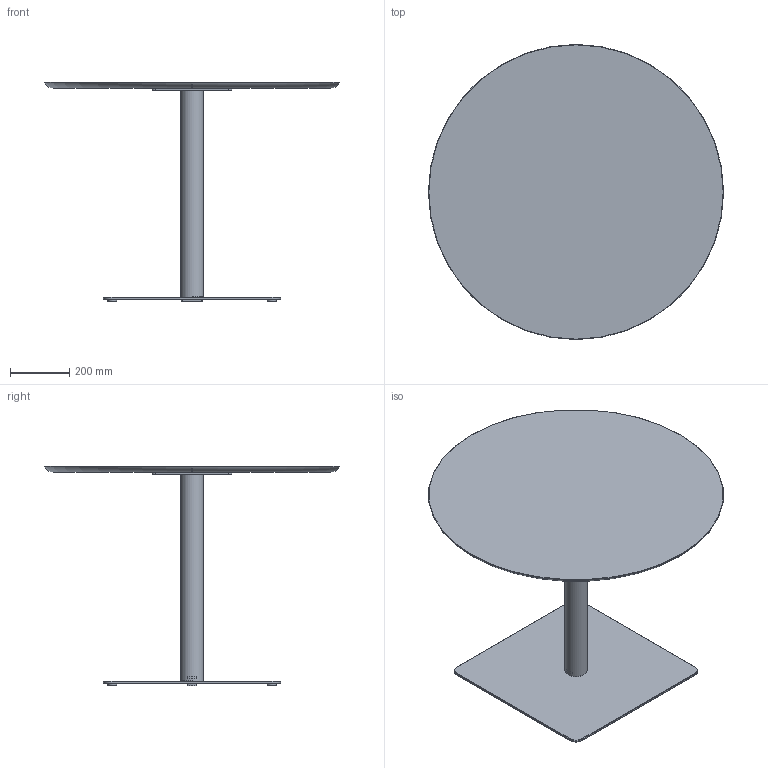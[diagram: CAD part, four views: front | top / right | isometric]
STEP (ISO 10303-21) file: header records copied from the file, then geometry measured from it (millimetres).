
FILE_DESCRIPTION( ('This file contains a STEP AP42 implementation' ,'as created by ZW3D STEP Interface translator.') ,'2;1' );
FILE_NAME( 'Henri - B_Carré - F1 - M3 - 900 x 900 x 750.stp' ,'24 912.162041', (''), ('ZWCAD Software Co.'), 'Version 1.0', 'ZW3D to STEP translator', '' );
FILE_SCHEMA(('AUTOMOTIVE_DESIGN { 1 0 10303 214 1 1 1 1 }'));
Length unit declared in the file: millimetre
Products named in the file (15): 0; PIED BISTROT PARAMETRIQUE_; COLONNE ACIER Ø76 V.02_; TUB-D076-02_; PLA-R76B-01_; CROIX ACIER 370 V.02_; CRX-X370-02_; SOCLE ACIER L 600x600 V.02_; SCL-R600-02_; PLA-R30A-01_; PLA-R30A-01; WUERTH 0276063020 Euro-screw 6.3x2 Verzinkt_; PLATEAU BISTROT PARAMETRIQUE_; insert_m6_13_; insert_m6_13
Assembly tree (22 placements, depth 3):
  0
  PIED BISTROT PARAMETRIQUE_
    COLONNE ACIER Ø76 V.02_
      TUB-D076-02_
      PLA-R76B-01_  x2
    CROIX ACIER 370 V.02_
      CRX-X370-02_
    SOCLE ACIER L 600x600 V.02_
      SCL-R600-02_
      PLA-R30A-01_
      PLA-R30A-01  x3
    WUERTH 0276063020 Euro-screw 6.3x2 Verzinkt_
    PLATEAU BISTROT PARAMETRIQUE_
      insert_m6_13_  x2
      insert_m6_13  x6
Bounding box: 1000 x 1000 x 744 mm (x, y, z)
Volume: 19045236.3 mm3; surface area: 2852595 mm2
Topology: 19 solids, 19 shells, 537 faces, 1310 edges, 822 vertices
Faces by surface type: plane 258, bspline 121, cylinder 102, cone 51, torus 5
Full cylindrical faces by diameter (mm): 4.88 x1, 6 x8, 6.3 x1, 8 x45, 12 x2, 14 x2, 30 x4, 72 x1, 76 x1
Entity records: 13362 total; most frequent: CARTESIAN_POINT 3810, ORIENTED_EDGE 1758, DIRECTION 1632, EDGE_CURVE 879, VERTEX_POINT 558, AXIS2_PLACEMENT_3D 544, VECTOR 544, LINE 544
